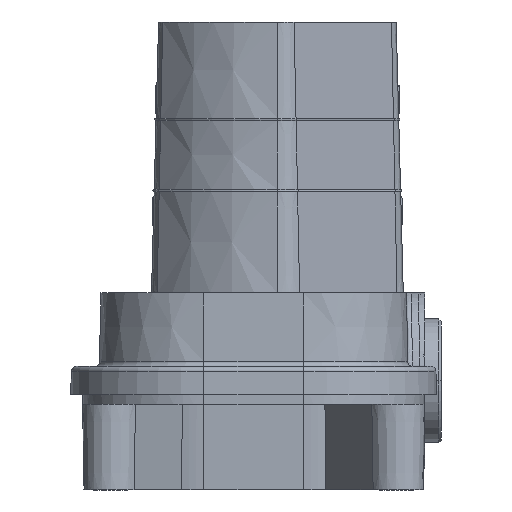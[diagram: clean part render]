
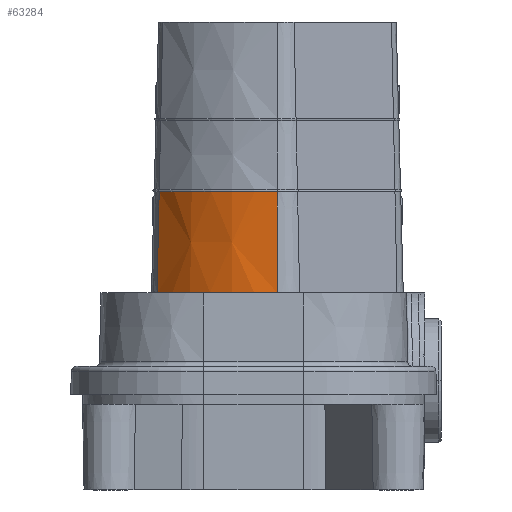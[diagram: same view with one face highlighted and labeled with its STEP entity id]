
A CAD part, front view. The second image highlights one B-rep face of the part: STEP entity #63284.
In plain terms, the highlighted conical face has half-angle 1.5 degrees and reference radius 30.754 mm.
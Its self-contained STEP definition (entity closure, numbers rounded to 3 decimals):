
#49940=CARTESIAN_POINT('',(70.,5.,18.5));
#49941=DIRECTION('',(0.,0.,1.));
#49942=DIRECTION('',(0.595,-0.804,0.));
#49943=AXIS2_PLACEMENT_3D('',#49940,#49941,#49942);
#50480=DIRECTION('',(-0.026,0.,1.));
#50481=VECTOR('',#50480,21.257);
#50482=CARTESIAN_POINT('',(101.5,5.,18.5));
#50483=LINE('',#50482,#50481);
#50525=CARTESIAN_POINT('',(70.,5.,39.75));
#50526=DIRECTION('',(0.,0.,1.));
#50527=DIRECTION('',(0.595,-0.804,0.));
#50528=AXIS2_PLACEMENT_3D('',#50525,#50526,#50527);
#50533=DIRECTION('',(-0.016,0.021,1.));
#50534=VECTOR('',#50533,21.257);
#50535=CARTESIAN_POINT('',(88.734,-20.324,18.5));
#50536=LINE('',#50535,#50534);
#61330=CARTESIAN_POINT('',(88.734,-20.324,18.5));
#61331=VERTEX_POINT('',#61330);
#61332=CARTESIAN_POINT('',(101.5,5.,18.5));
#61333=VERTEX_POINT('',#61332);
#61702=CARTESIAN_POINT('',(88.403,-19.876,
39.75));
#61703=VERTEX_POINT('',#61702);
#61706=CARTESIAN_POINT('',(100.944,5.,39.75));
#61707=VERTEX_POINT('',#61706);
#63271=CARTESIAN_POINT('',(70.,5.,47.));
#63272=DIRECTION('',(0.,0.,-1.));
#63273=DIRECTION('',(1.,0.,0.));
#63274=AXIS2_PLACEMENT_3D('',#63271,#63272,#63273);
#63275=CONICAL_SURFACE('',#63274,30.754,1.5);
#63277=ORIENTED_EDGE('',*,*,#63276,.T.);
#63278=ORIENTED_EDGE('',*,*,#63238,.F.);
#63279=ORIENTED_EDGE('',*,*,#62911,.F.);
#63281=ORIENTED_EDGE('',*,*,#63280,.T.);
#63282=EDGE_LOOP('',(#63277,#63278,#63279,#63281));
#63283=FACE_OUTER_BOUND('',#63282,.F.);
#63284=ADVANCED_FACE('',(#63283),#63275,.T.);
#49944=CIRCLE('',#49943,31.5);
#50529=CIRCLE('',#50528,30.944);
#62911=EDGE_CURVE('',#61331,#61333,#49944,.T.);
#63238=EDGE_CURVE('',#61333,#61707,#50483,.T.);
#63276=EDGE_CURVE('',#61703,#61707,#50529,.T.);
#63280=EDGE_CURVE('',#61331,#61703,#50536,.T.);
